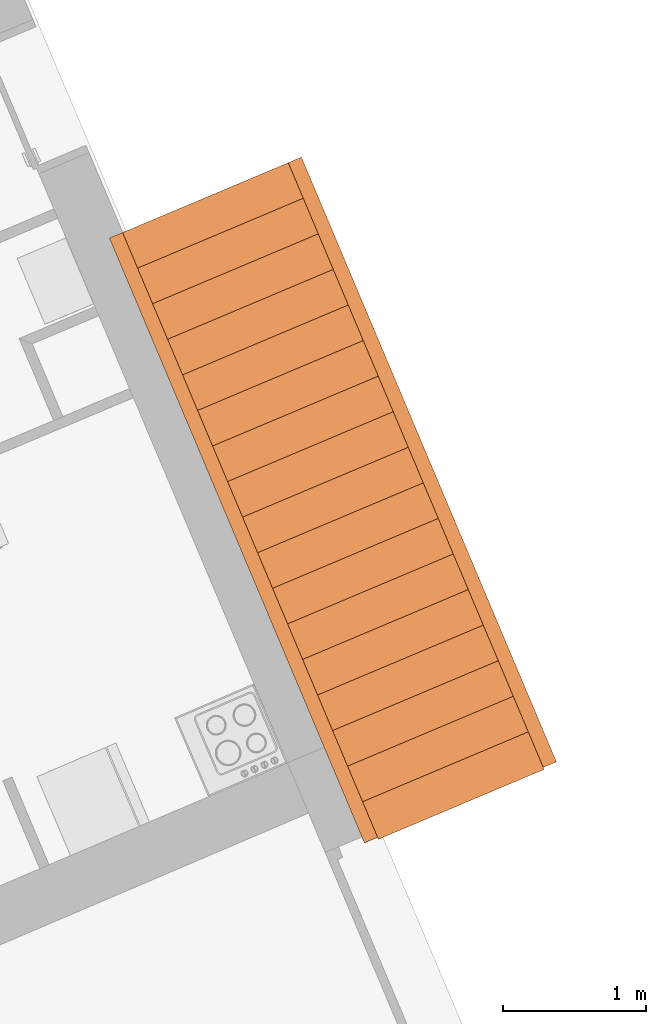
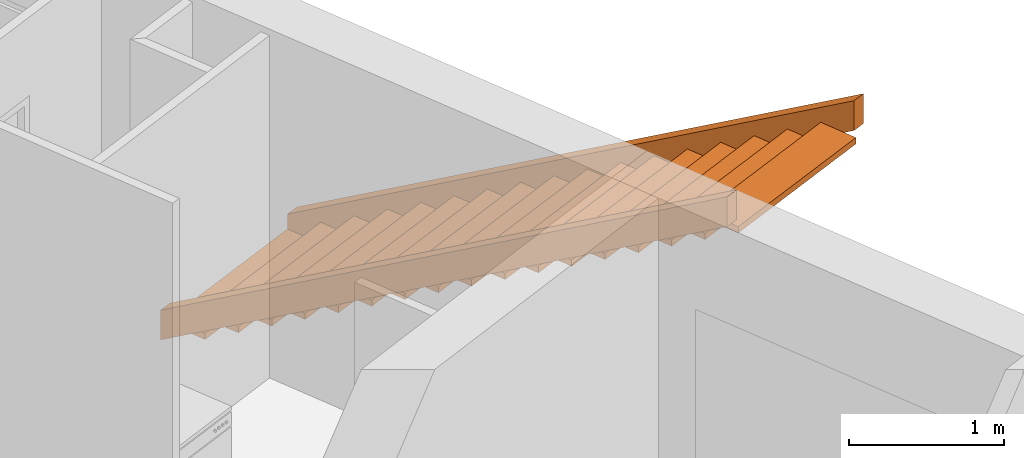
# One storey, part 189 of 195: 19 proxies, 1 element without a shape of its own.
"""IFC2X3 building model written with IfcOpenShell, lengths in metres."""

import ifcopenshell
import ifcopenshell.guid

model = None  # the IFC model being written
_history = None  # IfcOwnerHistory: only IFC2X3 demands one
_inside = {}  # id of a spatial element -> (the spatial element, [elements in it])
_under = {}  # id of a project, library or spatial element -> (it, [spatial elements below it])
_declared = {}  # id of a project -> (the project, [libraries it declares])
_typed = {}  # id of a type object -> (the type object, [elements of that type])
_made_of = {}  # id of a material, layer set ... -> (it, [elements and type objects made of it])


def new_model(schema):
    """Start an empty IFC model of exactly this schema.

    Asked for "IFC4X3", IfcOpenShell would pick the latest addendum, in which some entities
    have other attributes; the version numbers below select the first issue.
    IFC2X3 requires an IfcOwnerHistory on every rooted entity: one is made here for all.
    """
    global model, _history
    if schema == "IFC4X3":
        model = ifcopenshell.file(schema_version=(4, 3, 0, 0))
    else:
        model = ifcopenshell.file(schema=schema)
    _inside.clear()
    _under.clear()
    _declared.clear()
    _typed.clear()
    _made_of.clear()
    _history = None
    if model.schema == "IFC2X3":
        org = make("IfcOrganization", Name="unknown")
        user = make(
            "IfcPersonAndOrganization",
            ThePerson=make("IfcPerson", FamilyName="unknown"),
            TheOrganization=org,
        )
        app = make(
            "IfcApplication",
            ApplicationDeveloper=org,
            Version="unknown",
            ApplicationFullName="unknown",
            ApplicationIdentifier="unknown",
        )
        _history = make(
            "IfcOwnerHistory",
            OwningUser=user,
            OwningApplication=app,
            ChangeAction="ADDED",
            CreationDate=0,
        )
    return model


def make(cls, **values):
    """One entity of the class cls with the attributes given. An attribute that is None is left unset."""
    return model.create_entity(
        cls, **{name: value for name, value in values.items() if value is not None}
    )


def entity(cls, *values):
    """Any entity or typed value of the class cls, its attributes in the order of the schema. None: left unset."""
    e = model.create_entity(cls)
    for i, value in enumerate(values):
        if value is not None:
            e[i] = value
    return e


def rooted(cls, **values):
    """An entity with a GlobalId (a new one), such as an element, a storey or a relation."""
    return make(cls, GlobalId=ifcopenshell.guid.new(), OwnerHistory=_history, **values)


def si_unit(unit_type, name, prefix=None):
    """IfcSIUnit, for example si_unit("LENGTHUNIT", "METRE", prefix="MILLI")."""
    return make("IfcSIUnit", UnitType=unit_type, Prefix=prefix, Name=name)


def converted_unit(unit_type, name, factor, base, dimensions=None, offset=None):
    """IfcConversionBasedUnit, such as the inch: factor (a typed value) times the base unit."""
    return make(
        "IfcConversionBasedUnit"
        if offset is None
        else "IfcConversionBasedUnitWithOffset",
        ConversionOffset=offset,
        Dimensions=None
        if dimensions is None
        else entity("IfcDimensionalExponents", *dimensions),
        UnitType=unit_type,
        Name=name,
        ConversionFactor=make(
            "IfcMeasureWithUnit", ValueComponent=factor, UnitComponent=base
        ),
    )


def derived_unit(unit_type, elements):
    """IfcDerivedUnit: a product of units, each with its exponent."""
    return make(
        "IfcDerivedUnit",
        Elements=[
            make("IfcDerivedUnitElement", Unit=unit, Exponent=power)
            for unit, power in elements
        ],
        UnitType=unit_type,
    )


def money_unit(currency):
    """IfcMonetaryUnit."""
    return make("IfcMonetaryUnit", Currency=currency)


def assignment(units):
    """IfcUnitAssignment: the units of a project."""
    return None if units is None else make("IfcUnitAssignment", Units=units)


def point(xyz):
    """IfcCartesianPoint."""
    return None if xyz is None else make("IfcCartesianPoint", Coordinates=xyz)


def direction(xyz):
    """IfcDirection."""
    return None if xyz is None else make("IfcDirection", DirectionRatios=xyz)


def frame(location, z_axis=None, x_axis=None):
    """IfcAxis2Placement3D, a coordinate frame: its origin and axes. An axis left out is left unset."""
    return make(
        "IfcAxis2Placement3D",
        Location=point(location),
        Axis=direction(z_axis),
        RefDirection=direction(x_axis),
    )


def origin_with_axes():
    """The frame at (0, 0, 0) with the z axis (0, 0, 1) and the x axis (1, 0, 0) written out."""
    return frame((0.0, 0.0, 0.0), z_axis=(0.0, 0.0, 1.0), x_axis=(1.0, 0.0, 0.0))


def place(relative_to, where):
    """IfcLocalPlacement: puts the frame where relative to a parent placement (None: the world)."""
    return make(
        "IfcLocalPlacement", PlacementRelTo=relative_to, RelativePlacement=where
    )


def context(
    kind, dimensions, precision=None, world=None, true_north=None, identifier=None
):
    """IfcGeometricRepresentationContext, for example the 3D "Model" context."""
    return make(
        "IfcGeometricRepresentationContext",
        ContextIdentifier=identifier,
        ContextType=kind,
        CoordinateSpaceDimension=dimensions,
        Precision=precision,
        WorldCoordinateSystem=world,
        TrueNorth=true_north,
    )


def subcontext(parent, identifier, kind, view, scale=None):
    """IfcGeometricRepresentationSubContext, for example "Body" below "Model"."""
    return make(
        "IfcGeometricRepresentationSubContext",
        ContextIdentifier=identifier,
        ContextType=kind,
        ParentContext=parent,
        TargetScale=scale,
        TargetView=view,
    )


def project(units=None, contexts=None):
    """IfcProject with its units and contexts."""
    return rooted(
        "IfcProject",
        Name="project",
        RepresentationContexts=contexts,
        UnitsInContext=assignment(units),
    )


def spatial(cls, under=None, at=None, **own):
    """A site, building, storey or space (cls), placed at a placement, below another one or the project."""
    s = rooted(cls, ObjectPlacement=at, **own)
    if under is not None:
        _under.setdefault(under.id(), (under, []))[1].append(s)
    return s


def faces_of(points, faces, orient=None, outer=None):
    """IfcFace entities. A face is a list of loops; a loop is a list of indices into points, from 0.

    orient and outer hold one flag for each loop. By default every Orientation is true, the
    first loop of a face is its IfcFaceOuterBound and the others are IfcFaceBound.
    """
    made = []
    for i, loops in enumerate(faces):
        bounds = []
        for j, loop in enumerate(loops):
            is_outer = j == 0 if outer is None else outer[i][j]
            bounds.append(
                make(
                    "IfcFaceOuterBound" if is_outer else "IfcFaceBound",
                    Bound=make("IfcPolyLoop", Polygon=[points[k] for k in loop]),
                    Orientation=True if orient is None else orient[i][j],
                )
            )
        made.append(make("IfcFace", Bounds=bounds))
    return made


def faceted_brep(points, faces, orient=None, outer=None, voids=None):
    """IfcFacetedBrep: a solid bounded by flat faces; with voids (closed shells), ...WithVoids."""
    shared = [point(p) for p in points]
    hull = make("IfcClosedShell", CfsFaces=faces_of(shared, faces, orient, outer))
    if voids is None:
        return make("IfcFacetedBrep", Outer=hull)
    return make(
        "IfcFacetedBrepWithVoids",
        Outer=hull,
        Voids=[
            make(cls, CfsFaces=faces_of(shared, fs, o, b)) for cls, fs, o, b in voids
        ],
    )


def shape(context_of_items, identifier, shape_type, items):
    """IfcShapeRepresentation: the items that make up one representation, for example the "Body"."""
    return make(
        "IfcShapeRepresentation",
        ContextOfItems=context_of_items,
        RepresentationIdentifier=identifier,
        RepresentationType=shape_type,
        Items=items,
    )


def material(Name=None, Category=None):
    """IfcMaterial."""
    return make("IfcMaterial", Name=Name, Category=Category)


def made_of(thing, what):
    """Note that an element or type object is made of a material, layer set ...; save() writes the relation."""
    if what is not None:
        _made_of.setdefault(what.id(), (what, []))[1].append(thing)
    return thing


def type_object(cls, material=None, **own):
    """A type object (cls), such as IfcWallType, which elements share."""
    return made_of(rooted(cls, **own), material)


def element(
    cls,
    number,
    at=None,
    inside=None,
    cuts=None,
    type_object=None,
    material=None,
    context=None,
    identifier="Body",
    shape_type=None,
    held_by="IfcProductDefinitionShape",
    body=None,
    shapes=None,
    **own,
):
    """One element of the class cls, such as IfcWall. Its Tag is "e" and its number.

    at: its placement. inside: the storey or other place that contains it. cuts: it is an
    opening in that element (IfcRelVoidsElement). A single representation is given by context,
    identifier, shape_type and body (its items); several are given by shapes. held_by: the class
    of the entity that holds the representations. save() writes the other relations.
    """
    e = rooted(cls, Tag="e%d" % number, ObjectPlacement=at, **own)
    if body is not None:
        shapes = [shape(context, identifier, shape_type, body)]
    if shapes is not None:
        e.Representation = make(held_by, Representations=shapes)
    if inside is not None:
        _inside.setdefault(inside.id(), (inside, []))[1].append(e)
    if cuts is not None:
        rooted(
            "IfcRelVoidsElement", RelatingBuildingElement=cuts, RelatedOpeningElement=e
        )
    if type_object is not None:
        _typed.setdefault(type_object.id(), (type_object, []))[1].append(e)
    return made_of(e, material)


def aggregate(whole, parts):
    """IfcRelAggregates: a whole, such as a stair, and the parts it consists of."""
    return rooted("IfcRelAggregates", RelatingObject=whole, RelatedObjects=parts)


def save(model, path):
    """Write the relations noted so far, then the file.

    IfcRelAggregates (storeys below a building ...), IfcRelContainedInSpatialStructure (elements
    in a storey), IfcRelDefinesByType, IfcRelAssociatesMaterial and IfcRelDeclares: one each for
    every whole, place, type object, material and project.
    """
    for whole, parts in _under.values():
        aggregate(whole, parts)
    for where, things in _inside.values():
        rooted(
            "IfcRelContainedInSpatialStructure",
            RelatedElements=things,
            RelatingStructure=where,
        )
    for kind, things in _typed.values():
        rooted("IfcRelDefinesByType", RelatedObjects=things, RelatingType=kind)
    for what, things in _made_of.values():
        rooted("IfcRelAssociatesMaterial", RelatedObjects=things, RelatingMaterial=what)
    for by, libraries in _declared.values():
        rooted("IfcRelDeclares", RelatingContext=by, RelatedDefinitions=libraries)
    model.write(path)


model = new_model("IFC2X3")

# Units and contexts
model_context = context("Model", 3, precision=1e-05, world=origin_with_axes(), true_north=direction((0.0, 1.0)))
body_context = subcontext(model_context, "Body", "Model", "MODEL_VIEW")
ifc_project = project(units=[si_unit("LENGTHUNIT", "METRE"), si_unit("AREAUNIT", "SQUARE_METRE"), si_unit("VOLUMEUNIT", "CUBIC_METRE"), converted_unit("PLANEANGLEUNIT", "DEGREE", entity("IfcPlaneAngleMeasure", 0.0174532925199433), si_unit("PLANEANGLEUNIT", "RADIAN"), dimensions=[0, 0, 0, 0, 0, 0, 0]), money_unit("CHF"), converted_unit("TIMEUNIT", "Year", entity("IfcTimeMeasure", 31557600.0), si_unit("TIMEUNIT", "SECOND"), dimensions=[0, 0, 1, 0, 0, 0, 0]), si_unit("MASSUNIT", "GRAM", prefix="KILO"), si_unit("THERMODYNAMICTEMPERATUREUNIT", "DEGREE_CELSIUS"), si_unit("LUMINOUSINTENSITYUNIT", "LUMEN"), si_unit("ENERGYUNIT", "JOULE", prefix="MEGA"), derived_unit("THERMALCONDUCTANCEUNIT", [(si_unit("POWERUNIT", "WATT"), 1), (si_unit("LENGTHUNIT", "METRE"), -1), (si_unit("THERMODYNAMICTEMPERATUREUNIT", "KELVIN"), -1)]), derived_unit("SPECIFICHEATCAPACITYUNIT", [(si_unit("ENERGYUNIT", "JOULE"), 1), (si_unit("MASSUNIT", "GRAM", prefix="KILO"), -1), (si_unit("THERMODYNAMICTEMPERATUREUNIT", "KELVIN"), -1)]), derived_unit("MASSDENSITYUNIT", [(si_unit("MASSUNIT", "GRAM", prefix="KILO"), 1), (si_unit("VOLUMEUNIT", "CUBIC_METRE"), -1)])], contexts=[model_context])

# Site, building, storey
site_placement = place(None, origin_with_axes())
site = spatial("IfcSite", under=ifc_project, at=site_placement, Name="Site", CompositionType="ELEMENT")
building_placement = place(site_placement, origin_with_axes())
building = spatial("IfcBuilding", under=site, at=building_placement, Name="Bâtiment", CompositionType="ELEMENT")
storey_placement = place(building_placement, origin_with_axes())
storey = spatial("IfcBuildingStorey", under=building, at=storey_placement, Name="rdc", CompositionType="ELEMENT", Elevation=0.0)

# Stair, proxies
stair_placement = place(storey_placement, frame((9574.83535888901, -1049.747586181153, 57.33248236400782), z_axis=(0.0, 0.0, 1.0), x_axis=(-0.1328273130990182, 0.9911391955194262, 0.0)))
stair = element("IfcStair", 1, at=stair_placement, inside=storey, Name="ESC-028", ShapeType="NOTDEFINED")
ifc_material_1 = material(Name="Isolant styromousse 288701002")
building_element_proxy_type = type_object("IfcBuildingElementProxyType", Name="IfcBuildingElementProxy", PredefinedType="NOTDEFINED")
proxy_1_placement = place(stair_placement, origin_with_axes())
proxy_1 = element("IfcBuildingElementProxy", 2, at=proxy_1_placement, type_object=building_element_proxy_type, material=ifc_material_1, Name="SS - 039", context=body_context, shape_type="Brep", body=[
    faceted_brep([(-4.428745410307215, -1.205949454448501, 2.882482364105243), (-4.428745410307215, -1.205949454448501, 3.117517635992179), (0.0, 0.0, 0.2841843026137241), (0.0, 0.0, 0.04914903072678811), (-4.402472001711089, -1.30243628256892, 3.117517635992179), (-4.402472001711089, -1.30243628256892, 2.882482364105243), (0.02627340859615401, -0.09648682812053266, 0.2841843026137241), (0.02627340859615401, -0.09648682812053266, 0.04914903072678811)], [[[0, 1, 2, 3]], [[4, 1, 0, 5]], [[1, 4, 6, 2]], [[2, 6, 7, 3]], [[5, 0, 3, 7]], [[4, 5, 7, 6]]]),
])
proxy_2_placement = place(stair_placement, origin_with_axes())
proxy_2 = element("IfcBuildingElementProxy", 3, at=proxy_2_placement, type_object=building_element_proxy_type, material=ifc_material_1, Name="SS - 039", context=body_context, shape_type="Brep", body=[
    faceted_brep([(-4.785391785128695, 0.1038036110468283, 2.882482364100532), (-4.785391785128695, 0.1038036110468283, 3.117517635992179), (-0.3566463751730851, 1.309753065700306, 0.2841843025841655), (-0.3566463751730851, 1.309753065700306, 0.04914903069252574), (-4.759118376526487, 0.007316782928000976, 3.117517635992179), (-4.759118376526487, 0.007316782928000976, 2.882482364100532), (-0.3303729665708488, 1.213266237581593, 0.2841843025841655), (-0.3303729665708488, 1.213266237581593, 0.04914903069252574)], [[[0, 1, 2, 3]], [[4, 1, 0, 5]], [[1, 4, 6, 2]], [[2, 6, 7, 3]], [[5, 0, 3, 7]], [[4, 5, 7, 6]]]),
])
ifc_material_2 = material(Name="Lame d'air 275581351")
proxy_3_placement = place(stair_placement, frame((-0.1274260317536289, 0.4679611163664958, 0.1666666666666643), z_axis=(0.0, 0.0, 1.0), x_axis=(-0.2627340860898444, 0.9648682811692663, 0.0)))
proxy_3 = element("IfcBuildingElementProxy", 4, at=proxy_3_placement, type_object=building_element_proxy_type, material=ifc_material_2, Name="MARCHE-537", context=body_context, shape_type="Brep", body=[
    faceted_brep([(-0.4849999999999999, 0.0, -0.05), (0.7724423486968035, 2.853337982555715e-10, -0.05), (0.7724423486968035, 2.853337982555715e-10, 0.0), (-0.4849999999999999, 0.0, 0.0), (-0.4849999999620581, 0.2849999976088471, -0.05), (0.7724423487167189, 0.2849999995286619, -0.05), (0.7724423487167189, 0.2849999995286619, 0.0), (-0.4849999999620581, 0.2849999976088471, 0.0)], [[[0, 1, 2, 3]], [[0, 4, 5, 1]], [[1, 5, 6, 2]], [[3, 2, 6, 7]], [[4, 0, 3, 7]], [[5, 4, 7, 6]]]),
])
proxy_4_placement = place(stair_placement, frame((-0.3879404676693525, 0.3970229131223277, 0.3333333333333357), z_axis=(0.0, 0.0, 1.0), x_axis=(-0.2627340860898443, 0.9648682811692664, 0.0)))
proxy_4 = element("IfcBuildingElementProxy", 5, at=proxy_4_placement, type_object=building_element_proxy_type, material=ifc_material_2, Name="MARCHE-538", context=body_context, shape_type="Brep", body=[
    faceted_brep([(-0.4850000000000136, 0.0, -0.04999999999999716), (0.7724423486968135, 2.852971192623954e-10, -0.04999999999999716), (0.7724423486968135, 2.852971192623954e-10, 0.0), (-0.4850000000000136, 0.0, 0.0), (-0.4849999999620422, 0.2849999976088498, -0.04999999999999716), (0.7724423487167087, 0.2849999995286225, -0.04999999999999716), (0.7724423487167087, 0.2849999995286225, 0.0), (-0.4849999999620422, 0.2849999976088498, 0.0)], [[[0, 1, 2, 3]], [[0, 4, 5, 1]], [[1, 5, 6, 2]], [[3, 2, 6, 7]], [[4, 0, 3, 7]], [[5, 4, 7, 6]]]),
])
proxy_5_placement = place(stair_placement, frame((-0.6484549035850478, 0.3260847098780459, 0.5), z_axis=(0.0, 0.0, 1.0), x_axis=(-0.2627340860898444, 0.9648682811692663, 0.0)))
proxy_5 = element("IfcBuildingElementProxy", 6, at=proxy_5_placement, type_object=building_element_proxy_type, material=ifc_material_2, Name="MARCHE-539", context=body_context, shape_type="Brep", body=[
    faceted_brep([(-0.4849999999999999, 0.0, -0.05), (0.7724423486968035, 2.853337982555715e-10, -0.05), (0.7724423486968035, 2.853337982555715e-10, 0.0), (-0.4849999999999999, 0.0, 0.0), (-0.4849999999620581, 0.2849999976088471, -0.05), (0.7724423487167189, 0.2849999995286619, -0.05), (0.7724423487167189, 0.2849999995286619, 0.0), (-0.4849999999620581, 0.2849999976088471, 0.0)], [[[0, 1, 2, 3]], [[0, 4, 5, 1]], [[1, 5, 6, 2]], [[3, 2, 6, 7]], [[4, 0, 3, 7]], [[5, 4, 7, 6]]]),
])
proxy_6_placement = place(stair_placement, frame((-0.908969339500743, 0.2551465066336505, 0.6666666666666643), z_axis=(0.0, 0.0, 1.0), x_axis=(-0.2627340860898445, 0.9648682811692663, 0.0)))
proxy_6 = element("IfcBuildingElementProxy", 7, at=proxy_6_placement, type_object=building_element_proxy_type, material=ifc_material_2, Name="MARCHE-540", context=body_context, shape_type="Brep", body=[
    faceted_brep([(-0.4849999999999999, 0.0, -0.05), (0.7724423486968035, 2.853337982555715e-10, -0.05), (0.7724423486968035, 2.853337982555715e-10, 0.0), (-0.4849999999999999, 0.0, 0.0), (-0.4849999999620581, 0.2849999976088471, -0.05), (0.7724423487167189, 0.2849999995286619, -0.05), (0.7724423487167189, 0.2849999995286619, 0.0), (-0.4849999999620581, 0.2849999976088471, 0.0)], [[[0, 1, 2, 3]], [[0, 4, 5, 1]], [[1, 5, 6, 2]], [[3, 2, 6, 7]], [[4, 0, 3, 7]], [[5, 4, 7, 6]]]),
])
proxy_7_placement = place(stair_placement, frame((-1.429998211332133, 0.1132701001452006, 1.0), z_axis=(0.0, 0.0, 1.0), x_axis=(-0.2627340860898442, 0.9648682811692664, 0.0)))
proxy_7 = element("IfcBuildingElementProxy", 8, at=proxy_7_placement, type_object=building_element_proxy_type, material=ifc_material_2, Name="MARCHE-542", context=body_context, shape_type="Brep", body=[
    faceted_brep([(-0.4849999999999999, 0.0, -0.05), (0.7724423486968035, 2.853337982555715e-10, -0.05), (0.7724423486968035, 2.853337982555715e-10, 0.0), (-0.4849999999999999, 0.0, 0.0), (-0.4849999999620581, 0.2849999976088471, -0.05), (0.7724423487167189, 0.2849999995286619, -0.05), (0.7724423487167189, 0.2849999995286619, 0.0), (-0.4849999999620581, 0.2849999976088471, 0.0)], [[[0, 1, 2, 3]], [[0, 4, 5, 1]], [[1, 5, 6, 2]], [[3, 2, 6, 7]], [[4, 0, 3, 7]], [[5, 4, 7, 6]]]),
])
proxy_8_placement = place(stair_placement, frame((-1.690512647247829, 0.04233189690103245, 1.166666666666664), z_axis=(0.0, 0.0, 1.0), x_axis=(-0.2627340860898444, 0.9648682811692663, 0.0)))
proxy_8 = element("IfcBuildingElementProxy", 9, at=proxy_8_placement, type_object=building_element_proxy_type, material=ifc_material_2, Name="MARCHE-543", context=body_context, shape_type="Brep", body=[
    faceted_brep([(-0.4849999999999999, 0.0, -0.05), (0.7724423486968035, 2.853337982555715e-10, -0.05), (0.7724423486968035, 2.853337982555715e-10, 0.0), (-0.4849999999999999, 0.0, 0.0), (-0.4849999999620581, 0.2849999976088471, -0.05), (0.7724423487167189, 0.2849999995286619, -0.05), (0.7724423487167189, 0.2849999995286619, 0.0), (-0.4849999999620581, 0.2849999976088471, 0.0)], [[[0, 1, 2, 3]], [[0, 4, 5, 1]], [[1, 5, 6, 2]], [[3, 2, 6, 7]], [[4, 0, 3, 7]], [[5, 4, 7, 6]]]),
])
proxy_9_placement = place(stair_placement, frame((-1.169483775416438, 0.184208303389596, 0.8333333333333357), z_axis=(0.0, 0.0, 1.0), x_axis=(-0.2627340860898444, 0.9648682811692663, 0.0)))
proxy_9 = element("IfcBuildingElementProxy", 10, at=proxy_9_placement, type_object=building_element_proxy_type, material=ifc_material_2, Name="MARCHE-541", context=body_context, shape_type="Brep", body=[
    faceted_brep([(-0.4849999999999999, 0.0, -0.05), (0.7724423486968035, 2.853337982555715e-10, -0.05), (0.7724423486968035, 2.853337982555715e-10, 0.0), (-0.4849999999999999, 0.0, 0.0), (-0.4849999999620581, 0.2849999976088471, -0.05), (0.7724423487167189, 0.2849999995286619, -0.05), (0.7724423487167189, 0.2849999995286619, 0.0), (-0.4849999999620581, 0.2849999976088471, 0.0)], [[[0, 1, 2, 3]], [[0, 4, 5, 1]], [[1, 5, 6, 2]], [[3, 2, 6, 7]], [[4, 0, 3, 7]], [[5, 4, 7, 6]]]),
])
proxy_10_placement = place(stair_placement, frame((-1.951027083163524, -0.02860630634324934, 1.333333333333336), z_axis=(0.0, 0.0, 1.0), x_axis=(-0.2627340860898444, 0.9648682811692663, 0.0)))
proxy_10 = element("IfcBuildingElementProxy", 11, at=proxy_10_placement, type_object=building_element_proxy_type, material=ifc_material_2, Name="MARCHE-544", context=body_context, shape_type="Brep", body=[
    faceted_brep([(-0.4849999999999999, 0.0, -0.05), (0.7724423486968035, 2.853337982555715e-10, -0.05), (0.7724423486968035, 2.853337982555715e-10, 0.0), (-0.4849999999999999, 0.0, 0.0), (-0.4849999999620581, 0.2849999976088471, -0.05), (0.7724423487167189, 0.2849999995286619, -0.05), (0.7724423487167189, 0.2849999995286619, 0.0), (-0.4849999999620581, 0.2849999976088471, 0.0)], [[[0, 1, 2, 3]], [[0, 4, 5, 1]], [[1, 5, 6, 2]], [[3, 2, 6, 7]], [[4, 0, 3, 7]], [[5, 4, 7, 6]]]),
])
proxy_11_placement = place(stair_placement, frame((-2.472055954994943, -0.1704827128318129, 1.666666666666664), z_axis=(0.0, 0.0, 1.0), x_axis=(-0.2627340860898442, 0.9648682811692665, 0.0)))
proxy_11 = element("IfcBuildingElementProxy", 12, at=proxy_11_placement, type_object=building_element_proxy_type, material=ifc_material_2, Name="MARCHE-546", context=body_context, shape_type="Brep", body=[
    faceted_brep([(-0.4849999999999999, 0.0, -0.05), (0.7724423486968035, 2.853337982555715e-10, -0.05), (0.7724423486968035, 2.853337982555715e-10, 0.0), (-0.4849999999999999, 0.0, 0.0), (-0.4849999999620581, 0.2849999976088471, -0.05), (0.7724423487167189, 0.2849999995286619, -0.05), (0.7724423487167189, 0.2849999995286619, 0.0), (-0.4849999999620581, 0.2849999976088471, 0.0)], [[[0, 1, 2, 3]], [[0, 4, 5, 1]], [[1, 5, 6, 2]], [[3, 2, 6, 7]], [[4, 0, 3, 7]], [[5, 4, 7, 6]]]),
])
proxy_12_placement = place(stair_placement, frame((-2.211541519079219, -0.09954450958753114, 1.5), z_axis=(0.0, 0.0, 1.0), x_axis=(-0.2627340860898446, 0.9648682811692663, 0.0)))
proxy_12 = element("IfcBuildingElementProxy", 13, at=proxy_12_placement, type_object=building_element_proxy_type, material=ifc_material_2, Name="MARCHE-545", context=body_context, shape_type="Brep", body=[
    faceted_brep([(-0.4849999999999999, 0.0, -0.05), (0.7724423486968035, 2.853337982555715e-10, -0.05), (0.7724423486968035, 2.853337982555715e-10, 0.0), (-0.4849999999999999, 0.0, 0.0), (-0.4849999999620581, 0.2849999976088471, -0.05), (0.7724423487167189, 0.2849999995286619, -0.05), (0.7724423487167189, 0.2849999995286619, 0.0), (-0.4849999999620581, 0.2849999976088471, 0.0)], [[[0, 1, 2, 3]], [[0, 4, 5, 1]], [[1, 5, 6, 2]], [[3, 2, 6, 7]], [[4, 0, 3, 7]], [[5, 4, 7, 6]]]),
])
proxy_13_placement = place(stair_placement, frame((-2.732570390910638, -0.241420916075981, 1.833333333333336), z_axis=(0.0, 0.0, 1.0), x_axis=(-0.2627340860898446, 0.9648682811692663, 0.0)))
proxy_13 = element("IfcBuildingElementProxy", 14, at=proxy_13_placement, type_object=building_element_proxy_type, material=ifc_material_2, Name="MARCHE-547", context=body_context, shape_type="Brep", body=[
    faceted_brep([(-0.4849999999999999, 0.0, -0.05), (0.7724423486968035, 2.853337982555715e-10, -0.05), (0.7724423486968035, 2.853337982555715e-10, 0.0), (-0.4849999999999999, 0.0, 0.0), (-0.4849999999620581, 0.2849999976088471, -0.05), (0.7724423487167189, 0.2849999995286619, -0.05), (0.7724423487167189, 0.2849999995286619, 0.0), (-0.4849999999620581, 0.2849999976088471, 0.0)], [[[0, 1, 2, 3]], [[0, 4, 5, 1]], [[1, 5, 6, 2]], [[3, 2, 6, 7]], [[4, 0, 3, 7]], [[5, 4, 7, 6]]]),
])
proxy_14_placement = place(stair_placement, frame((-2.993084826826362, -0.3123591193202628, 2.0), z_axis=(0.0, 0.0, 1.0), x_axis=(-0.2627340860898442, 0.9648682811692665, 0.0)))
proxy_14 = element("IfcBuildingElementProxy", 15, at=proxy_14_placement, type_object=building_element_proxy_type, material=ifc_material_2, Name="MARCHE-548", context=body_context, shape_type="Brep", body=[
    faceted_brep([(-0.4849999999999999, 0.0, -0.05), (0.7724423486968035, 2.853337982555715e-10, -0.05), (0.7724423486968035, 2.853337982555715e-10, 0.0), (-0.4849999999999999, 0.0, 0.0), (-0.4849999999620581, 0.2849999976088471, -0.05), (0.7724423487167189, 0.2849999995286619, -0.05), (0.7724423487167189, 0.2849999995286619, 0.0), (-0.4849999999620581, 0.2849999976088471, 0.0)], [[[0, 1, 2, 3]], [[0, 4, 5, 1]], [[1, 5, 6, 2]], [[3, 2, 6, 7]], [[4, 0, 3, 7]], [[5, 4, 7, 6]]]),
])
proxy_15_placement = place(stair_placement, frame((-3.514113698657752, -0.4542355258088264, 2.333333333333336), z_axis=(0.0, 0.0, 1.0), x_axis=(-0.2627340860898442, 0.9648682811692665, 0.0)))
proxy_15 = element("IfcBuildingElementProxy", 16, at=proxy_15_placement, type_object=building_element_proxy_type, material=ifc_material_2, Name="MARCHE-550", context=body_context, shape_type="Brep", body=[
    faceted_brep([(-0.4849999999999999, 0.0, -0.05), (0.7724423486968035, 2.853337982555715e-10, -0.05), (0.7724423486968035, 2.853337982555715e-10, 0.0), (-0.4849999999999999, 0.0, 0.0), (-0.4849999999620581, 0.2849999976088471, -0.05), (0.7724423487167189, 0.2849999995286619, -0.05), (0.7724423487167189, 0.2849999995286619, 0.0), (-0.4849999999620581, 0.2849999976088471, 0.0)], [[[0, 1, 2, 3]], [[0, 4, 5, 1]], [[1, 5, 6, 2]], [[3, 2, 6, 7]], [[4, 0, 3, 7]], [[5, 4, 7, 6]]]),
])
proxy_16_placement = place(stair_placement, frame((-3.253599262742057, -0.3832973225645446, 2.166666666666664), z_axis=(0.0, 0.0, 1.0), x_axis=(-0.2627340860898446, 0.9648682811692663, 0.0)))
proxy_16 = element("IfcBuildingElementProxy", 17, at=proxy_16_placement, type_object=building_element_proxy_type, material=ifc_material_2, Name="MARCHE-549", context=body_context, shape_type="Brep", body=[
    faceted_brep([(-0.4849999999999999, 0.0, -0.05), (0.7724423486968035, 2.853337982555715e-10, -0.05), (0.7724423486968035, 2.853337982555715e-10, 0.0), (-0.4849999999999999, 0.0, 0.0), (-0.4849999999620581, 0.2849999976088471, -0.05), (0.7724423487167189, 0.2849999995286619, -0.05), (0.7724423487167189, 0.2849999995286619, 0.0), (-0.4849999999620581, 0.2849999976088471, 0.0)], [[[0, 1, 2, 3]], [[0, 4, 5, 1]], [[1, 5, 6, 2]], [[3, 2, 6, 7]], [[4, 0, 3, 7]], [[5, 4, 7, 6]]]),
])
proxy_17_placement = place(stair_placement, frame((-3.774628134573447, -0.5251737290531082, 2.5), z_axis=(0.0, 0.0, 1.0), x_axis=(-0.2627340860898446, 0.9648682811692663, 0.0)))
proxy_17 = element("IfcBuildingElementProxy", 18, at=proxy_17_placement, type_object=building_element_proxy_type, material=ifc_material_2, Name="MARCHE-551", context=body_context, shape_type="Brep", body=[
    faceted_brep([(-0.4849999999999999, 0.0, -0.05), (0.7724423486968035, 2.853337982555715e-10, -0.05), (0.7724423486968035, 2.853337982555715e-10, 0.0), (-0.4849999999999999, 0.0, 0.0), (-0.4849999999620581, 0.2849999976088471, -0.05), (0.7724423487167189, 0.2849999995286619, -0.05), (0.7724423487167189, 0.2849999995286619, 0.0), (-0.4849999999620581, 0.2849999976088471, 0.0)], [[[0, 1, 2, 3]], [[0, 4, 5, 1]], [[1, 5, 6, 2]], [[3, 2, 6, 7]], [[4, 0, 3, 7]], [[5, 4, 7, 6]]]),
])
proxy_18_placement = place(stair_placement, frame((-4.035142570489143, -0.59611193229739, 2.666666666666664), z_axis=(0.0, 0.0, 1.0), x_axis=(-0.2627340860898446, 0.9648682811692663, 0.0)))
proxy_18 = element("IfcBuildingElementProxy", 19, at=proxy_18_placement, type_object=building_element_proxy_type, material=ifc_material_2, Name="MARCHE-552", context=body_context, shape_type="Brep", body=[
    faceted_brep([(-0.4849999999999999, 0.0, -0.05), (0.7724423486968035, 2.853337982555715e-10, -0.05), (0.7724423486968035, 2.853337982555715e-10, 0.0), (-0.4849999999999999, 0.0, 0.0), (-0.4849999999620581, 0.2849999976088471, -0.05), (0.7724423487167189, 0.2849999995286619, -0.05), (0.7724423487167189, 0.2849999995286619, 0.0), (-0.4849999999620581, 0.2849999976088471, 0.0)], [[[0, 1, 2, 3]], [[0, 4, 5, 1]], [[1, 5, 6, 2]], [[3, 2, 6, 7]], [[4, 0, 3, 7]], [[5, 4, 7, 6]]]),
])
proxy_19_placement = place(stair_placement, frame((-4.295657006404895, -0.6670501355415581, 2.833333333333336), z_axis=(0.0, 0.0, 1.0), x_axis=(-0.262734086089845, 0.9648682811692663, 0.0)))
proxy_19 = element("IfcBuildingElementProxy", 20, at=proxy_19_placement, type_object=building_element_proxy_type, material=ifc_material_2, Name="MARCHE-553", context=body_context, shape_type="Brep", body=[
    faceted_brep([(-0.4849999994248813, 0.0, -0.05), (0.7724423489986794, 0.0, -0.05), (0.7724423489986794, 0.0, 0.0), (-0.4849999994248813, 0.0, 0.0), (-0.4849999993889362, 0.2699999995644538, -0.05), (-0.4849999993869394, 0.2849999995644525, -0.05), (0.7724423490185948, 0.2849999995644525, -0.05), (0.7724423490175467, 0.269999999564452, -0.05), (0.7724423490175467, 0.269999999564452, 0.0), (0.7724423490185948, 0.2849999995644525, 0.0), (-0.4849999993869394, 0.2849999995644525, 0.0), (-0.4849999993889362, 0.2699999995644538, 0.0)], [[[0, 1, 2, 3]], [[0, 4, 5, 6, 7, 1]], [[1, 7, 8, 2]], [[3, 2, 8, 9, 10, 11]], [[4, 0, 3, 11]], [[5, 4, 11, 10]], [[6, 5, 10, 9]], [[7, 6, 9, 8]]]),
])
aggregate(stair, [proxy_1, proxy_2, proxy_3, proxy_4, proxy_5, proxy_6, proxy_7, proxy_8, proxy_9, proxy_10, proxy_11, proxy_12, proxy_13, proxy_14, proxy_15, proxy_16, proxy_17, proxy_18, proxy_19])

save(model, "model.ifc")
